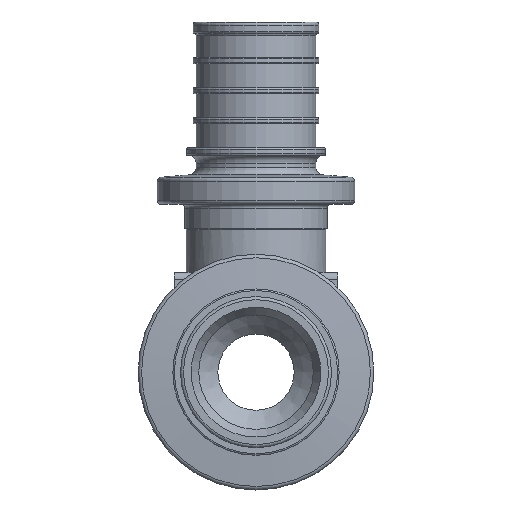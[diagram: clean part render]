
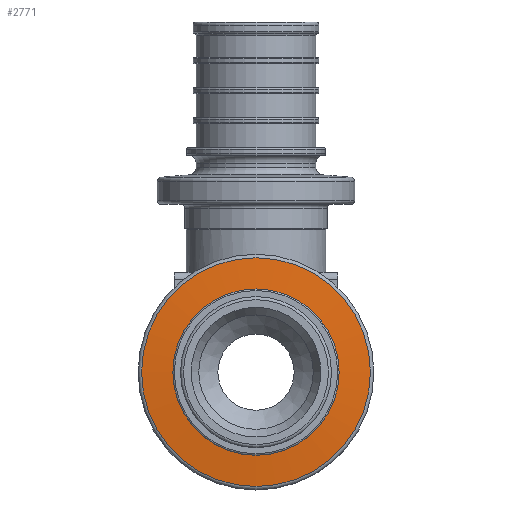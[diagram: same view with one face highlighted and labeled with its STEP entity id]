
A CAD part, front view. The second image highlights one B-rep face of the part: STEP entity #2771.
In plain terms, the highlighted conical face has half-angle 85 degrees and reference radius 12.653 mm.
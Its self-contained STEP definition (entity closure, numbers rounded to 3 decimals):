
#2771=ADVANCED_FACE('',(#6187,#6189),#6191,.T.);
#6187=FACE_OUTER_BOUND('',#6188,.T.);
#6188=EDGE_LOOP('',(#9198));
#6189=FACE_OUTER_BOUND('',#6190,.T.);
#6190=EDGE_LOOP('',(#9199));
#6191=CONICAL_SURFACE('',#6192,12.653,1.484);
#6192=AXIS2_PLACEMENT_3D('',#6193,#6194,#6195);
#6193=CARTESIAN_POINT('',(0.,-24.195,0.));
#6194=DIRECTION('',(0.,1.,0.));
#6195=DIRECTION('',(-1.,0.,0.));
#9198=ORIENTED_EDGE('',*,*,#10246,.T.);
#9199=ORIENTED_EDGE('',*,*,#10249,.T.);
#10246=EDGE_CURVE('',#11730,#11730,#11731,.T.);
#10249=EDGE_CURVE('',#11736,#11736,#11737,.F.);
#11730=VERTEX_POINT('',#15815);
#11731=CIRCLE('',#15816,14.994);
#11736=VERTEX_POINT('',#15830);
#11737=CIRCLE('',#15831,10.313);
#15815=CARTESIAN_POINT('',(14.994,-23.99,0.));
#15816=AXIS2_PLACEMENT_3D('',#15817,#15818,#15819);
#15817=CARTESIAN_POINT('',(0.,-23.99,0.));
#15818=DIRECTION('',(0.,-1.,0.));
#15819=DIRECTION('',(1.,0.,0.));
#15830=CARTESIAN_POINT('',(10.313,-24.399,0.));
#15831=AXIS2_PLACEMENT_3D('',#15832,#15833,#15834);
#15832=CARTESIAN_POINT('',(0.,-24.399,0.));
#15833=DIRECTION('',(0.,-1.,0.));
#15834=DIRECTION('',(1.,0.,0.));
